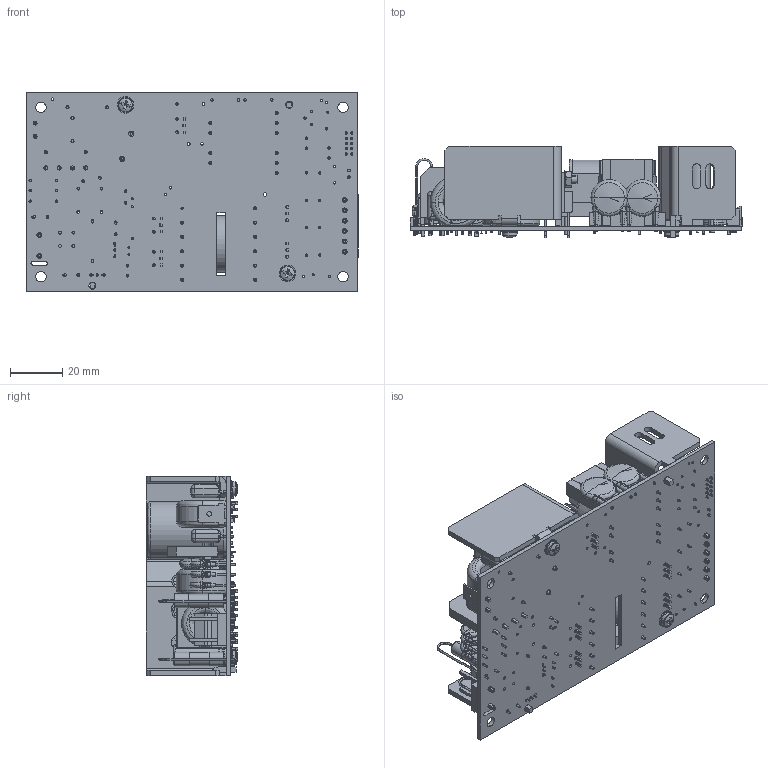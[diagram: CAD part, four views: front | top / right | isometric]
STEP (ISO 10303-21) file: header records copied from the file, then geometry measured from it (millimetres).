
FILE_DESCRIPTION (( 'STEP AP214' ), '1' );
FILE_NAME ('GCS150.STEP', '2020-04-27T17:47:41', ( '' ), ( '' ), 'SwSTEP 2.0', 'SolidWorks 2018', '' );
FILE_SCHEMA (( 'AUTOMOTIVE_DESIGN' ));
Length unit declared in the file: inch
Products named in the file (35): Inductor Toroid_20.0mm OD_10mm Width; Capacitor Elec_10mm D_25mm; Xxmr_1050x1150x1000_12p; Conn_JST_S10B-PHDSS-B_Vertical; Capacitor Elec_8mm D_20mm; Capacitor Elec_08mm D_13mm H; Conn_MLX_KK100_Hdr_02P; RES-3W; Screw_Flat Head Phillips (Metric)_(1314)_M3 x 8; Pot_Top adj_Type1_01; CAP FILM_17x5x11MM_15LS; 10013216 01; Screw_Sq Cone_no 4_01_.250; Nut_hex_6-32_RP_KEPS; TO220_3P_01; Nut_Keps_4-40_Star_01; Capacitor Disc_0.550 D_0.400 C; 10013215 01; CON MLX  .156 3P; Bridge Rectifier_GBU6K_Lead trimed; CON MLX  .156 06P; 10012490F0; Faston .25 X .032; Capacitor Film_18x11mm_15 LS_19mm H; Capacitor Elec_22mm D_30mm H; FUSE-0; Inductor Toroid_18.0mm OD_7mm Width; Therm_.350 D X .250 LS; TO92_01; Capacitor Disc_0.300 D_0.250 C; FHP_100dg_6-32x.250lg; Capacitor Disc_0.300 D X .40 LS; GCS150; Capacitor Elec_06.3mm D_13mm H; Xfmr_GCS150
Assembly tree (59 placements, depth 2):
  GCS150
    10012490F0
    CON MLX  .156 3P
    CON MLX  .156 06P
    FUSE-0  x2
    Capacitor Disc_0.300 D X .40 LS  x3
    Bridge Rectifier_GBU6K_Lead trimed
    CAP FILM_17x5x11MM_15LS  x3
    Inductor Toroid_20.0mm OD_10mm Width  x2
    Inductor Toroid_18.0mm OD_7mm Width
    Capacitor Film_18x11mm_15 LS_19mm H
    TO92_01  x2
    RES-3W  x2
    Capacitor Elec_8mm D_20mm
    Capacitor Elec_06.3mm D_13mm H
    Capacitor Elec_22mm D_30mm H
    10013215 01
    Screw_Flat Head Phillips (Metric)_(1314)_M3 x 8  x3
    Nut_Keps_4-40_Star_01  x3
    TO220_3P_01  x5
    Xfmr_GCS150
    Xxmr_1050x1150x1000_12p
    10013216 01
    Screw_Sq Cone_no 4_01_.250  x2
    Nut_hex_6-32_RP_KEPS  x2
    FHP_100dg_6-32x.250lg  x2
    Capacitor Elec_10mm D_25mm  x4
    Capacitor Elec_08mm D_13mm H  x2
    Conn_JST_S10B-PHDSS-B_Vertical
    Pot_Top adj_Type1_01
    Capacitor Disc_0.300 D_0.250 C  x2
    Conn_MLX_KK100_Hdr_02P
    Faston .25 X .032
    Capacitor Disc_0.550 D_0.400 C  x2
    Therm_.350 D X .250 LS
Bounding box: 127 x 34.92 x 76.21 mm (x, y, z)
Volume: 107608.4 mm3; surface area: 81162.7 mm2
Topology: 84 solids, 101 shells, 3190 faces, 7815 edges, 4928 vertices
Faces by surface type: plane 1649, cylinder 983, bspline 346, cone 212
Entity records: 99981 total; most frequent: CARTESIAN_POINT 17924, DIRECTION 10885, ORIENTED_EDGE 10622, EDGE_CURVE 5311, AXIS2_PLACEMENT_3D 3853, VERTEX_POINT 3416, VECTOR 3179, LINE 3179
